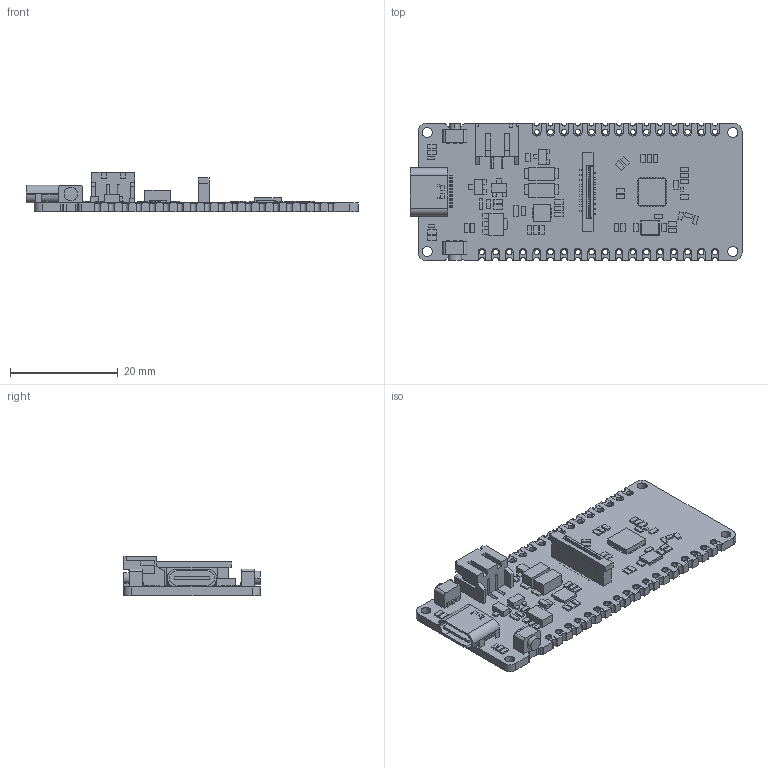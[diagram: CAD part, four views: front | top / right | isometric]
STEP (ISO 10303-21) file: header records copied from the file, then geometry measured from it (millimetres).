
FILE_DESCRIPTION (( 'STEP AP203' ), '1' );
FILE_NAME ('ESP32C6.STEP', '2024-04-14T12:41:46', ( '' ), ( '' ), 'SwSTEP 2.0', 'SolidWorks 2020', '' );
FILE_SCHEMA (( 'CONFIG_CONTROL_DESIGN' ));
Length unit declared in the file: millimetre
Products named in the file (1): ESP32C6
Bounding box: 61.5 x 25.4 x 7.25 mm (x, y, z)
Volume: 2955.7 mm3; surface area: 4642.4 mm2
Topology: 1 solids, 1 shells, 1398 faces, 3874 edges, 2535 vertices
Faces by surface type: plane 1172, cylinder 222, sphere 4
Entity records: 44167 total; most frequent: CARTESIAN_POINT 7828, ORIENTED_EDGE 7740, DIRECTION 7100, EDGE_CURVE 3870, VECTOR 3422, LINE 3422, VERTEX_POINT 2535, AXIS2_PLACEMENT_3D 1839
